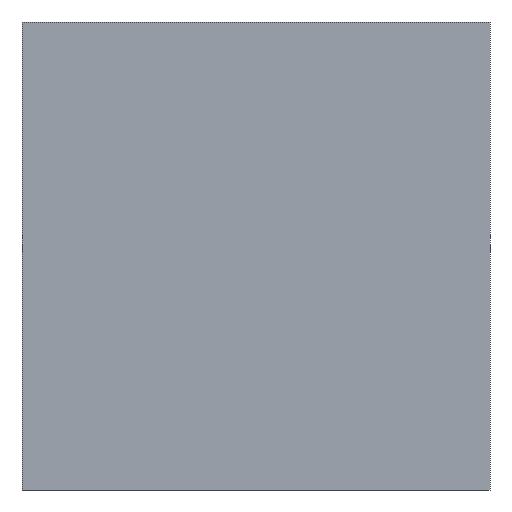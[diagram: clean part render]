
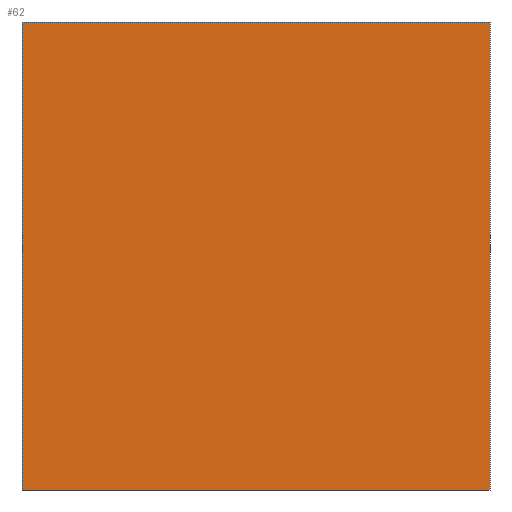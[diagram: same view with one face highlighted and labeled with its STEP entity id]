
A CAD part, front view. The second image highlights one B-rep face of the part: STEP entity #62.
In plain terms, the highlighted planar face has unit normal (0, -1, 0).
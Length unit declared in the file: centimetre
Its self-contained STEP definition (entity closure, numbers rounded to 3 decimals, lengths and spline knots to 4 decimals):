
#2 = AXIS2_PLACEMENT_3D ( 'NONE', #98, #313, #462 ) ;
#15 = VECTOR ( 'NONE', #115, 100. ) ;
#21 = FACE_OUTER_BOUND ( 'NONE', #315, .T. ) ;
#24 = EDGE_CURVE ( 'NONE', #355, #469, #101, .T. ) ;
#48 = EDGE_CURVE ( 'NONE', #197, #425, #203, .T. ) ;
#62 = ADVANCED_FACE ( 'NONE', ( #21 ), #172, .F. ) ;
#63 = ORIENTED_EDGE ( 'NONE', *, *, #155, .T. ) ;
#81 = CARTESIAN_POINT ( 'NONE',  ( 1000., 0., 1000. ) ) ;
#98 = CARTESIAN_POINT ( 'NONE',  ( 0., 0., 1000. ) ) ;
#99 = EDGE_CURVE ( 'NONE', #425, #469, #216, .T. ) ;
#101 = LINE ( 'NONE', #136, #337 ) ;
#102 = ORIENTED_EDGE ( 'NONE', *, *, #48, .F. ) ;
#115 = DIRECTION ( 'NONE',  ( 0., 0., -1. ) ) ;
#136 = CARTESIAN_POINT ( 'NONE',  ( 0., 0., 0. ) ) ;
#155 = EDGE_CURVE ( 'NONE', #197, #355, #409, .T. ) ;
#172 = PLANE ( 'NONE',  #2 ) ;
#185 = CARTESIAN_POINT ( 'NONE',  ( 0., 0., 1000. ) ) ;
#197 = VERTEX_POINT ( 'NONE', #185 ) ;
#203 = LINE ( 'NONE', #347, #314 ) ;
#216 = LINE ( 'NONE', #81, #15 ) ;
#222 = VECTOR ( 'NONE', #295, 100. ) ;
#271 = CARTESIAN_POINT ( 'NONE',  ( 1000., 0., 1000. ) ) ;
#283 = ORIENTED_EDGE ( 'NONE', *, *, #24, .T. ) ;
#286 = DIRECTION ( 'NONE',  ( 1., 0., 0. ) ) ;
#295 = DIRECTION ( 'NONE',  ( 0., 0., -1. ) ) ;
#313 = DIRECTION ( 'NONE',  ( 0., 1., 0. ) ) ;
#314 = VECTOR ( 'NONE', #350, 100. ) ;
#315 = EDGE_LOOP ( 'NONE', ( #283, #318, #102, #63 ) ) ;
#318 = ORIENTED_EDGE ( 'NONE', *, *, #99, .F. ) ;
#337 = VECTOR ( 'NONE', #286, 100. ) ;
#340 = CARTESIAN_POINT ( 'NONE',  ( 0., 0., 0. ) ) ;
#347 = CARTESIAN_POINT ( 'NONE',  ( 0., 0., 1000. ) ) ;
#350 = DIRECTION ( 'NONE',  ( 1., 0., 0. ) ) ;
#355 = VERTEX_POINT ( 'NONE', #340 ) ;
#409 = LINE ( 'NONE', #472, #222 ) ;
#415 = CARTESIAN_POINT ( 'NONE',  ( 1000., 0., 0. ) ) ;
#425 = VERTEX_POINT ( 'NONE', #271 ) ;
#462 = DIRECTION ( 'NONE',  ( 0., 0., 1. ) ) ;
#469 = VERTEX_POINT ( 'NONE', #415 ) ;
#472 = CARTESIAN_POINT ( 'NONE',  ( 0., 0., 1000. ) ) ;
